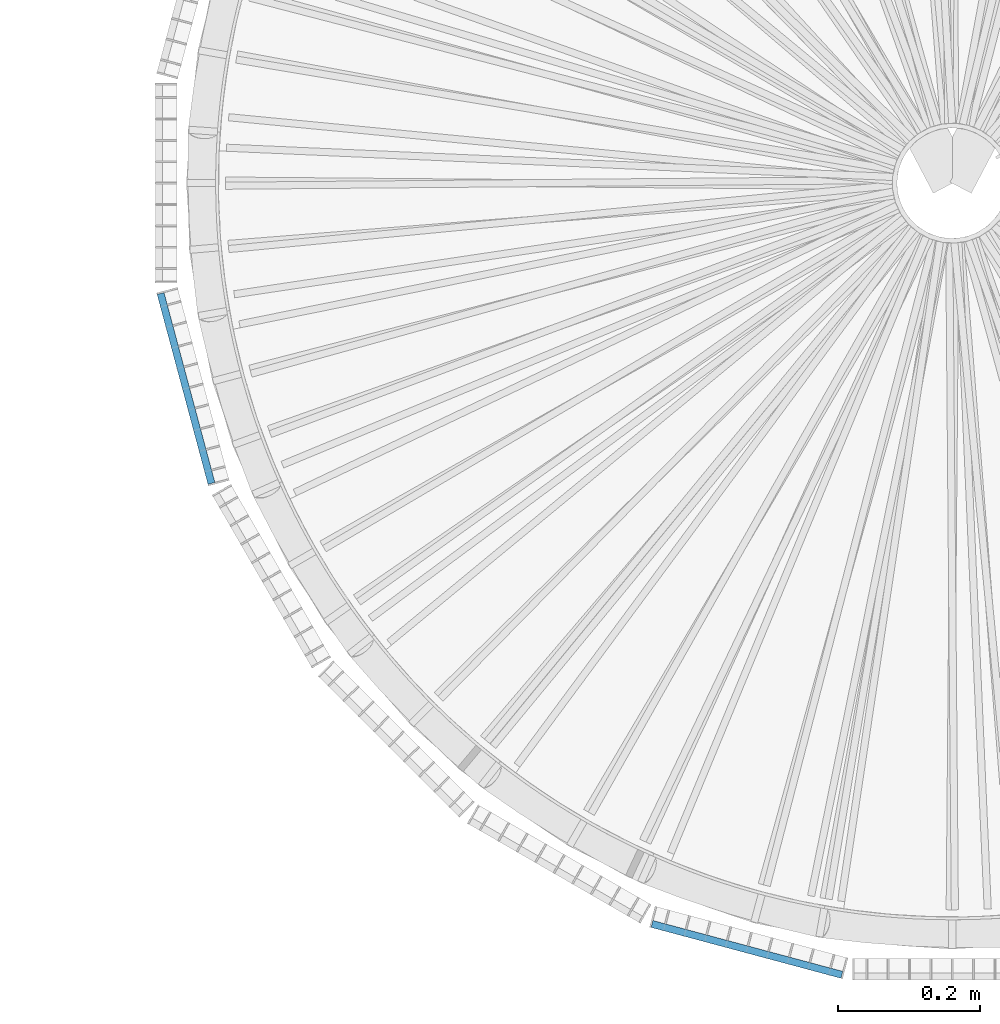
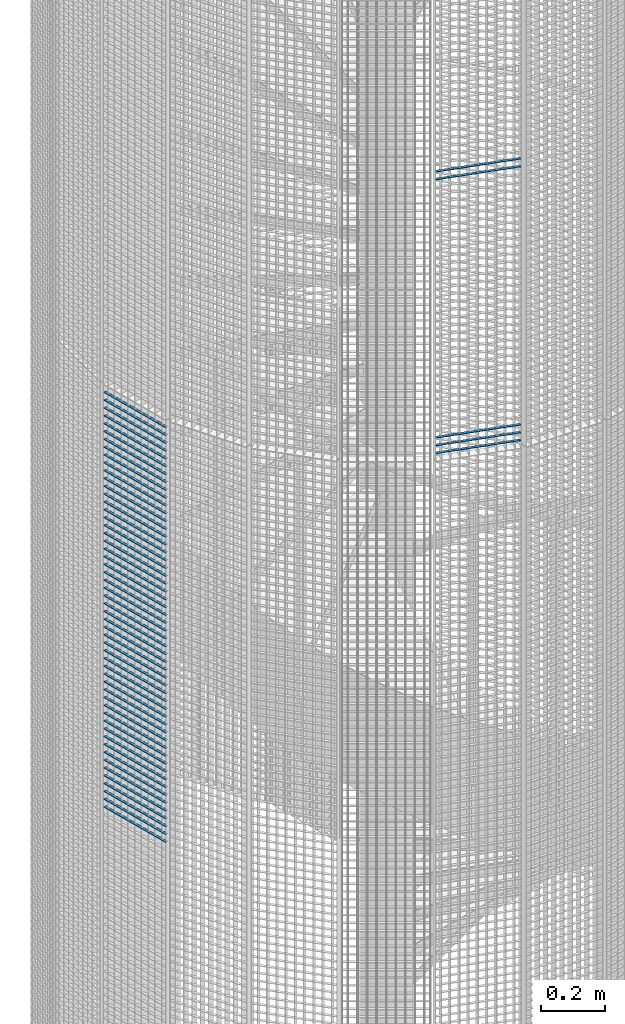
# One storey, part 365 of 1148: 59 beams, 2 elements without a shape of their own.
"""IFC2X3 building model written with IfcOpenShell, lengths in millimetres."""

from ifc_helpers import new_model, si_unit, frame, origin_with_axes, origin_2d_with_axis, place, context, subcontext, project, spatial, rectangle, extrude, material, type_object, element, aggregate, save


model = new_model("IFC2X3")

# Units and contexts
model_context = context("Model", 3, precision=1e-05, world=origin_with_axes())
body_context = subcontext(model_context, "Body", "Model", "MODEL_VIEW")
ifc_project = project(units=[si_unit("LENGTHUNIT", "METRE", prefix="MILLI"), si_unit("AREAUNIT", "SQUARE_METRE"), si_unit("VOLUMEUNIT", "CUBIC_METRE"), si_unit("MASSUNIT", "GRAM", prefix="KILO"), si_unit("TIMEUNIT", "SECOND"), si_unit("PLANEANGLEUNIT", "RADIAN"), si_unit("SOLIDANGLEUNIT", "STERADIAN"), si_unit("THERMODYNAMICTEMPERATUREUNIT", "DEGREE_CELSIUS"), si_unit("LUMINOUSINTENSITYUNIT", "LUMEN")], contexts=[model_context])

# Site, building, storey
site_placement = place(None, origin_with_axes())
site = spatial("IfcSite", under=ifc_project, at=site_placement, Name="Undefined", CompositionType="ELEMENT")
building_placement = place(site_placement, origin_with_axes())
building = spatial("IfcBuilding", under=site, at=building_placement, Name="Undefined", CompositionType="ELEMENT")
storey_placement = place(building_placement, origin_with_axes())
storey = spatial("IfcBuildingStorey", under=building, at=storey_placement, Name="Undefined", CompositionType="ELEMENT", Elevation=0.0)

# Assembly, beams
assembly_1_placement = place(storey_placement, origin_with_axes())
assembly_1 = element("IfcElementAssembly", 1, at=assembly_1_placement, inside=storey, Name="BORDURE", AssemblyPlace="NOTDEFINED", PredefinedType="NOTDEFINED")
ifc_material = material(Name="STEEL/S235JR")
beam_type = type_object("IfcBeamType", Name="PL2*10", PredefinedType="NOTDEFINED")
beam_1_placement = place(assembly_1_placement, frame((21445.1040732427, -1111.25508286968, 4080.0), z_axis=(-0.258819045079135, -0.965925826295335, 0.0), x_axis=(-0.965925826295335, 0.258819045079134, 0.0)))
beam_1 = element("IfcBeam", 2, at=beam_1_placement, type_object=beam_type, material=ifc_material, Name="ENTRETOISE", context=body_context, shape_type="SweptSolid", body=[
    extrude(rectangle(XDim=2.0, YDim=10.0, at=origin_2d_with_axis()), frame((275.999999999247, 9.09494701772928e-13, 1.53210777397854e-14), z_axis=(-1.0, 0.0, 0.0), x_axis=(0.0, -1.0, 0.0)), (0.0, 0.0, 1.0), 276.0),
])
beam_2_placement = place(assembly_1_placement, frame((21445.1040732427, -1111.25508286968, 3090.0), z_axis=(-0.258819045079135, -0.965925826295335, 0.0), x_axis=(-0.965925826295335, 0.258819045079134, 0.0)))
beam_2 = element("IfcBeam", 3, at=beam_2_placement, type_object=beam_type, material=ifc_material, Name="ENTRETOISE", context=body_context, shape_type="SweptSolid", body=[
    extrude(rectangle(XDim=2.0, YDim=10.0, at=origin_2d_with_axis()), frame((275.999999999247, 9.09494701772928e-13, 1.53210777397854e-14), z_axis=(-1.0, 0.0, 0.0), x_axis=(0.0, -1.0, 0.0)), (0.0, 0.0, 1.0), 276.0),
])
beam_3_placement = place(assembly_1_placement, frame((21445.1040732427, -1111.25508286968, 3060.0), z_axis=(-0.258819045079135, -0.965925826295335, 0.0), x_axis=(-0.965925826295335, 0.258819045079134, 0.0)))
beam_3 = element("IfcBeam", 4, at=beam_3_placement, type_object=beam_type, material=ifc_material, Name="ENTRETOISE", context=body_context, shape_type="SweptSolid", body=[
    extrude(rectangle(XDim=2.0, YDim=10.0, at=origin_2d_with_axis()), frame((275.999999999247, 9.09494701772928e-13, 1.53210777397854e-14), z_axis=(-1.0, 0.0, 0.0), x_axis=(0.0, -1.0, 0.0)), (0.0, 0.0, 1.0), 276.0),
])
beam_4_placement = place(assembly_1_placement, frame((21445.1040732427, -1111.25508286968, 4110.0), z_axis=(-0.258819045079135, -0.965925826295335, 0.0), x_axis=(-0.965925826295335, 0.258819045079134, 0.0)))
beam_4 = element("IfcBeam", 5, at=beam_4_placement, type_object=beam_type, material=ifc_material, Name="ENTRETOISE", context=body_context, shape_type="SweptSolid", body=[
    extrude(rectangle(XDim=2.0, YDim=10.0, at=origin_2d_with_axis()), frame((275.999999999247, 9.09494701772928e-13, 1.53210777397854e-14), z_axis=(-1.0, 0.0, 0.0), x_axis=(0.0, -1.0, 0.0)), (0.0, 0.0, 1.0), 276.0),
])
beam_5_placement = place(assembly_1_placement, frame((21445.1040732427, -1111.25508286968, 3030.0), z_axis=(-0.258819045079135, -0.965925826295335, 0.0), x_axis=(-0.965925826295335, 0.258819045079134, 0.0)))
beam_5 = element("IfcBeam", 6, at=beam_5_placement, type_object=beam_type, material=ifc_material, Name="ENTRETOISE", context=body_context, shape_type="SweptSolid", body=[
    extrude(rectangle(XDim=2.0, YDim=10.0, at=origin_2d_with_axis()), frame((275.999999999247, 9.09494701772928e-13, 1.53210777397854e-14), z_axis=(-1.0, 0.0, 0.0), x_axis=(0.0, -1.0, 0.0)), (0.0, 0.0, 1.0), 276.0),
])
aggregate(assembly_1, [beam_1, beam_2, beam_3, beam_4, beam_5])

assembly_2_placement = place(storey_placement, origin_with_axes())
assembly_2 = element("IfcElementAssembly", 7, at=assembly_2_placement, inside=storey, Name="BORDURE", AssemblyPlace="NOTDEFINED", PredefinedType="NOTDEFINED")
beam_6_placement = place(assembly_2_placement, frame((20560.1769047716, -421.483733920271, 2970.0), z_axis=(-0.965925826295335, -0.258819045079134, 0.0), x_axis=(-0.258819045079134, 0.965925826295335, 0.0)))
beam_6 = element("IfcBeam", 8, at=beam_6_placement, type_object=beam_type, material=ifc_material, Name="ENTRETOISE", context=body_context, shape_type="SweptSolid", body=[
    extrude(rectangle(XDim=2.0, YDim=10.0, at=origin_2d_with_axis()), frame((275.999999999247, 9.09494701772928e-13, 1.53210777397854e-14), z_axis=(-1.0, 0.0, 0.0), x_axis=(0.0, -1.0, 0.0)), (0.0, 0.0, 1.0), 276.0),
])
beam_7_placement = place(assembly_2_placement, frame((20560.1769047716, -421.483733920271, 2940.0), z_axis=(-0.965925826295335, -0.258819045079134, 0.0), x_axis=(-0.258819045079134, 0.965925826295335, 0.0)))
beam_7 = element("IfcBeam", 9, at=beam_7_placement, type_object=beam_type, material=ifc_material, Name="ENTRETOISE", context=body_context, shape_type="SweptSolid", body=[
    extrude(rectangle(XDim=2.0, YDim=10.0, at=origin_2d_with_axis()), frame((275.999999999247, 9.09494701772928e-13, 1.53210777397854e-14), z_axis=(-1.0, 0.0, 0.0), x_axis=(0.0, -1.0, 0.0)), (0.0, 0.0, 1.0), 276.0),
])
beam_8_placement = place(assembly_2_placement, frame((20560.1769047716, -421.483733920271, 2910.0), z_axis=(-0.965925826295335, -0.258819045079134, 0.0), x_axis=(-0.258819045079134, 0.965925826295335, 0.0)))
beam_8 = element("IfcBeam", 10, at=beam_8_placement, type_object=beam_type, material=ifc_material, Name="ENTRETOISE", context=body_context, shape_type="SweptSolid", body=[
    extrude(rectangle(XDim=2.0, YDim=10.0, at=origin_2d_with_axis()), frame((275.999999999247, 9.09494701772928e-13, 1.53210777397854e-14), z_axis=(-1.0, 0.0, 0.0), x_axis=(0.0, -1.0, 0.0)), (0.0, 0.0, 1.0), 276.0),
])
beam_9_placement = place(assembly_2_placement, frame((20560.1769047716, -421.483733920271, 2880.0), z_axis=(-0.965925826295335, -0.258819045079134, 0.0), x_axis=(-0.258819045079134, 0.965925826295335, 0.0)))
beam_9 = element("IfcBeam", 11, at=beam_9_placement, type_object=beam_type, material=ifc_material, Name="ENTRETOISE", context=body_context, shape_type="SweptSolid", body=[
    extrude(rectangle(XDim=2.0, YDim=10.0, at=origin_2d_with_axis()), frame((275.999999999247, 9.09494701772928e-13, 1.53210777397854e-14), z_axis=(-1.0, 0.0, 0.0), x_axis=(0.0, -1.0, 0.0)), (0.0, 0.0, 1.0), 276.0),
])
beam_10_placement = place(assembly_2_placement, frame((20560.1769047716, -421.483733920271, 2850.0), z_axis=(-0.965925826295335, -0.258819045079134, 0.0), x_axis=(-0.258819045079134, 0.965925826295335, 0.0)))
beam_10 = element("IfcBeam", 12, at=beam_10_placement, type_object=beam_type, material=ifc_material, Name="ENTRETOISE", context=body_context, shape_type="SweptSolid", body=[
    extrude(rectangle(XDim=2.0, YDim=10.0, at=origin_2d_with_axis()), frame((275.999999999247, 9.09494701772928e-13, 1.53210777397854e-14), z_axis=(-1.0, 0.0, 0.0), x_axis=(0.0, -1.0, 0.0)), (0.0, 0.0, 1.0), 276.0),
])
beam_11_placement = place(assembly_2_placement, frame((20560.1769047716, -421.483733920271, 2820.0), z_axis=(-0.965925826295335, -0.258819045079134, 0.0), x_axis=(-0.258819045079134, 0.965925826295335, 0.0)))
beam_11 = element("IfcBeam", 13, at=beam_11_placement, type_object=beam_type, material=ifc_material, Name="ENTRETOISE", context=body_context, shape_type="SweptSolid", body=[
    extrude(rectangle(XDim=2.0, YDim=10.0, at=origin_2d_with_axis()), frame((275.999999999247, 9.09494701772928e-13, 1.53210777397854e-14), z_axis=(-1.0, 0.0, 0.0), x_axis=(0.0, -1.0, 0.0)), (0.0, 0.0, 1.0), 276.0),
])
beam_12_placement = place(assembly_2_placement, frame((20560.1769047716, -421.483733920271, 2790.0), z_axis=(-0.965925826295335, -0.258819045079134, 0.0), x_axis=(-0.258819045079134, 0.965925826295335, 0.0)))
beam_12 = element("IfcBeam", 14, at=beam_12_placement, type_object=beam_type, material=ifc_material, Name="ENTRETOISE", context=body_context, shape_type="SweptSolid", body=[
    extrude(rectangle(XDim=2.0, YDim=10.0, at=origin_2d_with_axis()), frame((275.999999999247, 9.09494701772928e-13, 1.53210777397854e-14), z_axis=(-1.0, 0.0, 0.0), x_axis=(0.0, -1.0, 0.0)), (0.0, 0.0, 1.0), 276.0),
])
beam_13_placement = place(assembly_2_placement, frame((20560.1769047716, -421.483733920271, 2760.0), z_axis=(-0.965925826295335, -0.258819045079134, 0.0), x_axis=(-0.258819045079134, 0.965925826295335, 0.0)))
beam_13 = element("IfcBeam", 15, at=beam_13_placement, type_object=beam_type, material=ifc_material, Name="ENTRETOISE", context=body_context, shape_type="SweptSolid", body=[
    extrude(rectangle(XDim=2.0, YDim=10.0, at=origin_2d_with_axis()), frame((275.999999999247, 9.09494701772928e-13, 1.53210777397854e-14), z_axis=(-1.0, 0.0, 0.0), x_axis=(0.0, -1.0, 0.0)), (0.0, 0.0, 1.0), 276.0),
])
beam_14_placement = place(assembly_2_placement, frame((20560.1769047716, -421.48373392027, 2730.0), z_axis=(-0.965925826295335, -0.258819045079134, 0.0), x_axis=(-0.258819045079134, 0.965925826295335, 0.0)))
beam_14 = element("IfcBeam", 16, at=beam_14_placement, type_object=beam_type, material=ifc_material, Name="ENTRETOISE", context=body_context, shape_type="SweptSolid", body=[
    extrude(rectangle(XDim=2.0, YDim=10.0, at=origin_2d_with_axis()), frame((275.999999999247, 9.09494701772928e-13, 1.53210777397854e-14), z_axis=(-1.0, 0.0, 0.0), x_axis=(0.0, -1.0, 0.0)), (0.0, 0.0, 1.0), 276.0),
])
beam_15_placement = place(assembly_2_placement, frame((20560.1769047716, -421.48373392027, 2700.0), z_axis=(-0.965925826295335, -0.258819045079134, 0.0), x_axis=(-0.258819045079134, 0.965925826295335, 0.0)))
beam_15 = element("IfcBeam", 17, at=beam_15_placement, type_object=beam_type, material=ifc_material, Name="ENTRETOISE", context=body_context, shape_type="SweptSolid", body=[
    extrude(rectangle(XDim=2.0, YDim=10.0, at=origin_2d_with_axis()), frame((275.999999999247, 9.09494701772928e-13, 1.53210777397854e-14), z_axis=(-1.0, 0.0, 0.0), x_axis=(0.0, -1.0, 0.0)), (0.0, 0.0, 1.0), 276.0),
])
beam_16_placement = place(assembly_2_placement, frame((20560.1769047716, -421.48373392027, 2670.0), z_axis=(-0.965925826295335, -0.258819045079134, 0.0), x_axis=(-0.258819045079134, 0.965925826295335, 0.0)))
beam_16 = element("IfcBeam", 18, at=beam_16_placement, type_object=beam_type, material=ifc_material, Name="ENTRETOISE", context=body_context, shape_type="SweptSolid", body=[
    extrude(rectangle(XDim=2.0, YDim=10.0, at=origin_2d_with_axis()), frame((275.999999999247, 9.09494701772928e-13, 1.53210777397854e-14), z_axis=(-1.0, 0.0, 0.0), x_axis=(0.0, -1.0, 0.0)), (0.0, 0.0, 1.0), 276.0),
])
beam_17_placement = place(assembly_2_placement, frame((20560.1769047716, -421.48373392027, 2640.0), z_axis=(-0.965925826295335, -0.258819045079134, 0.0), x_axis=(-0.258819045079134, 0.965925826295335, 0.0)))
beam_17 = element("IfcBeam", 19, at=beam_17_placement, type_object=beam_type, material=ifc_material, Name="ENTRETOISE", context=body_context, shape_type="SweptSolid", body=[
    extrude(rectangle(XDim=2.0, YDim=10.0, at=origin_2d_with_axis()), frame((275.999999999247, 9.09494701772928e-13, 1.53210777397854e-14), z_axis=(-1.0, 0.0, 0.0), x_axis=(0.0, -1.0, 0.0)), (0.0, 0.0, 1.0), 276.0),
])
beam_18_placement = place(assembly_2_placement, frame((20560.1769047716, -421.48373392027, 2610.0), z_axis=(-0.965925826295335, -0.258819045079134, 0.0), x_axis=(-0.258819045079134, 0.965925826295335, 0.0)))
beam_18 = element("IfcBeam", 20, at=beam_18_placement, type_object=beam_type, material=ifc_material, Name="ENTRETOISE", context=body_context, shape_type="SweptSolid", body=[
    extrude(rectangle(XDim=2.0, YDim=10.0, at=origin_2d_with_axis()), frame((275.999999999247, 9.09494701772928e-13, 1.53210777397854e-14), z_axis=(-1.0, 0.0, 0.0), x_axis=(0.0, -1.0, 0.0)), (0.0, 0.0, 1.0), 276.0),
])
beam_19_placement = place(assembly_2_placement, frame((20560.1769047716, -421.48373392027, 2580.0), z_axis=(-0.965925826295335, -0.258819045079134, 0.0), x_axis=(-0.258819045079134, 0.965925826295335, 0.0)))
beam_19 = element("IfcBeam", 21, at=beam_19_placement, type_object=beam_type, material=ifc_material, Name="ENTRETOISE", context=body_context, shape_type="SweptSolid", body=[
    extrude(rectangle(XDim=2.0, YDim=10.0, at=origin_2d_with_axis()), frame((275.999999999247, 9.09494701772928e-13, 1.53210777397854e-14), z_axis=(-1.0, 0.0, 0.0), x_axis=(0.0, -1.0, 0.0)), (0.0, 0.0, 1.0), 276.0),
])
beam_20_placement = place(assembly_2_placement, frame((20560.1769047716, -421.48373392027, 2550.0), z_axis=(-0.965925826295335, -0.258819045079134, 0.0), x_axis=(-0.258819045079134, 0.965925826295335, 0.0)))
beam_20 = element("IfcBeam", 22, at=beam_20_placement, type_object=beam_type, material=ifc_material, Name="ENTRETOISE", context=body_context, shape_type="SweptSolid", body=[
    extrude(rectangle(XDim=2.0, YDim=10.0, at=origin_2d_with_axis()), frame((275.999999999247, 9.09494701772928e-13, 1.53210777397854e-14), z_axis=(-1.0, 0.0, 0.0), x_axis=(0.0, -1.0, 0.0)), (0.0, 0.0, 1.0), 276.0),
])
beam_21_placement = place(assembly_2_placement, frame((20560.1769047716, -421.48373392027, 2520.0), z_axis=(-0.965925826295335, -0.258819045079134, 0.0), x_axis=(-0.258819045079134, 0.965925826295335, 0.0)))
beam_21 = element("IfcBeam", 23, at=beam_21_placement, type_object=beam_type, material=ifc_material, Name="ENTRETOISE", context=body_context, shape_type="SweptSolid", body=[
    extrude(rectangle(XDim=2.0, YDim=10.0, at=origin_2d_with_axis()), frame((275.999999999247, 9.09494701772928e-13, 1.53210777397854e-14), z_axis=(-1.0, 0.0, 0.0), x_axis=(0.0, -1.0, 0.0)), (0.0, 0.0, 1.0), 276.0),
])
beam_22_placement = place(assembly_2_placement, frame((20560.1769047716, -421.48373392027, 2490.0), z_axis=(-0.965925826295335, -0.258819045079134, 0.0), x_axis=(-0.258819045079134, 0.965925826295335, 0.0)))
beam_22 = element("IfcBeam", 24, at=beam_22_placement, type_object=beam_type, material=ifc_material, Name="ENTRETOISE", context=body_context, shape_type="SweptSolid", body=[
    extrude(rectangle(XDim=2.0, YDim=10.0, at=origin_2d_with_axis()), frame((275.999999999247, 9.09494701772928e-13, 1.53210777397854e-14), z_axis=(-1.0, 0.0, 0.0), x_axis=(0.0, -1.0, 0.0)), (0.0, 0.0, 1.0), 276.0),
])
beam_23_placement = place(assembly_2_placement, frame((20560.1769047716, -421.483733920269, 2460.0), z_axis=(-0.965925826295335, -0.258819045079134, 0.0), x_axis=(-0.258819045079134, 0.965925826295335, 0.0)))
beam_23 = element("IfcBeam", 25, at=beam_23_placement, type_object=beam_type, material=ifc_material, Name="ENTRETOISE", context=body_context, shape_type="SweptSolid", body=[
    extrude(rectangle(XDim=2.0, YDim=10.0, at=origin_2d_with_axis()), frame((275.999999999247, 9.09494701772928e-13, 1.53210777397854e-14), z_axis=(-1.0, 0.0, 0.0), x_axis=(0.0, -1.0, 0.0)), (0.0, 0.0, 1.0), 276.0),
])
beam_24_placement = place(assembly_2_placement, frame((20560.1769047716, -421.483733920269, 2430.0), z_axis=(-0.965925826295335, -0.258819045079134, 0.0), x_axis=(-0.258819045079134, 0.965925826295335, 0.0)))
beam_24 = element("IfcBeam", 26, at=beam_24_placement, type_object=beam_type, material=ifc_material, Name="ENTRETOISE", context=body_context, shape_type="SweptSolid", body=[
    extrude(rectangle(XDim=2.0, YDim=10.0, at=origin_2d_with_axis()), frame((275.999999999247, 9.09494701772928e-13, 1.53210777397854e-14), z_axis=(-1.0, 0.0, 0.0), x_axis=(0.0, -1.0, 0.0)), (0.0, 0.0, 1.0), 276.0),
])
beam_25_placement = place(assembly_2_placement, frame((20560.1769047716, -421.483733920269, 2400.0), z_axis=(-0.965925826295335, -0.258819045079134, 0.0), x_axis=(-0.258819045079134, 0.965925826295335, 0.0)))
beam_25 = element("IfcBeam", 27, at=beam_25_placement, type_object=beam_type, material=ifc_material, Name="ENTRETOISE", context=body_context, shape_type="SweptSolid", body=[
    extrude(rectangle(XDim=2.0, YDim=10.0, at=origin_2d_with_axis()), frame((275.999999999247, 9.09494701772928e-13, 1.53210777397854e-14), z_axis=(-1.0, 0.0, 0.0), x_axis=(0.0, -1.0, 0.0)), (0.0, 0.0, 1.0), 276.0),
])
beam_26_placement = place(assembly_2_placement, frame((20560.1769047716, -421.483733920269, 2370.0), z_axis=(-0.965925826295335, -0.258819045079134, 0.0), x_axis=(-0.258819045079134, 0.965925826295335, 0.0)))
beam_26 = element("IfcBeam", 28, at=beam_26_placement, type_object=beam_type, material=ifc_material, Name="ENTRETOISE", context=body_context, shape_type="SweptSolid", body=[
    extrude(rectangle(XDim=2.0, YDim=10.0, at=origin_2d_with_axis()), frame((275.999999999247, 9.09494701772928e-13, 1.53210777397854e-14), z_axis=(-1.0, 0.0, 0.0), x_axis=(0.0, -1.0, 0.0)), (0.0, 0.0, 1.0), 276.0),
])
beam_27_placement = place(assembly_2_placement, frame((20560.1769047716, -421.483733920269, 2340.0), z_axis=(-0.965925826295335, -0.258819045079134, 0.0), x_axis=(-0.258819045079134, 0.965925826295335, 0.0)))
beam_27 = element("IfcBeam", 29, at=beam_27_placement, type_object=beam_type, material=ifc_material, Name="ENTRETOISE", context=body_context, shape_type="SweptSolid", body=[
    extrude(rectangle(XDim=2.0, YDim=10.0, at=origin_2d_with_axis()), frame((275.999999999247, 9.09494701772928e-13, 1.53210777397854e-14), z_axis=(-1.0, 0.0, 0.0), x_axis=(0.0, -1.0, 0.0)), (0.0, 0.0, 1.0), 276.0),
])
beam_28_placement = place(assembly_2_placement, frame((20560.1769047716, -421.483733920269, 2310.0), z_axis=(-0.965925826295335, -0.258819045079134, 0.0), x_axis=(-0.258819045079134, 0.965925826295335, 0.0)))
beam_28 = element("IfcBeam", 30, at=beam_28_placement, type_object=beam_type, material=ifc_material, Name="ENTRETOISE", context=body_context, shape_type="SweptSolid", body=[
    extrude(rectangle(XDim=2.0, YDim=10.0, at=origin_2d_with_axis()), frame((275.999999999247, 9.09494701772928e-13, 1.53210777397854e-14), z_axis=(-1.0, 0.0, 0.0), x_axis=(0.0, -1.0, 0.0)), (0.0, 0.0, 1.0), 276.0),
])
beam_29_placement = place(assembly_2_placement, frame((20560.1769047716, -421.483733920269, 2280.0), z_axis=(-0.965925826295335, -0.258819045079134, 0.0), x_axis=(-0.258819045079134, 0.965925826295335, 0.0)))
beam_29 = element("IfcBeam", 31, at=beam_29_placement, type_object=beam_type, material=ifc_material, Name="ENTRETOISE", context=body_context, shape_type="SweptSolid", body=[
    extrude(rectangle(XDim=2.0, YDim=10.0, at=origin_2d_with_axis()), frame((275.999999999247, 9.09494701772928e-13, 1.53210777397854e-14), z_axis=(-1.0, 0.0, 0.0), x_axis=(0.0, -1.0, 0.0)), (0.0, 0.0, 1.0), 276.0),
])
beam_30_placement = place(assembly_2_placement, frame((20560.1769047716, -421.483733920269, 2250.0), z_axis=(-0.965925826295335, -0.258819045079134, 0.0), x_axis=(-0.258819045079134, 0.965925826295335, 0.0)))
beam_30 = element("IfcBeam", 32, at=beam_30_placement, type_object=beam_type, material=ifc_material, Name="ENTRETOISE", context=body_context, shape_type="SweptSolid", body=[
    extrude(rectangle(XDim=2.0, YDim=10.0, at=origin_2d_with_axis()), frame((275.999999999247, 9.09494701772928e-13, 1.53210777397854e-14), z_axis=(-1.0, 0.0, 0.0), x_axis=(0.0, -1.0, 0.0)), (0.0, 0.0, 1.0), 276.0),
])
beam_31_placement = place(assembly_2_placement, frame((20560.1769047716, -421.483733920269, 2220.0), z_axis=(-0.965925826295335, -0.258819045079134, 0.0), x_axis=(-0.258819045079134, 0.965925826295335, 0.0)))
beam_31 = element("IfcBeam", 33, at=beam_31_placement, type_object=beam_type, material=ifc_material, Name="ENTRETOISE", context=body_context, shape_type="SweptSolid", body=[
    extrude(rectangle(XDim=2.0, YDim=10.0, at=origin_2d_with_axis()), frame((275.999999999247, 9.09494701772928e-13, 1.53210777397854e-14), z_axis=(-1.0, 0.0, 0.0), x_axis=(0.0, -1.0, 0.0)), (0.0, 0.0, 1.0), 276.0),
])
beam_32_placement = place(assembly_2_placement, frame((20560.1769047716, -421.483733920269, 2190.0), z_axis=(-0.965925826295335, -0.258819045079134, 0.0), x_axis=(-0.258819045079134, 0.965925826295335, 0.0)))
beam_32 = element("IfcBeam", 34, at=beam_32_placement, type_object=beam_type, material=ifc_material, Name="ENTRETOISE", context=body_context, shape_type="SweptSolid", body=[
    extrude(rectangle(XDim=2.0, YDim=10.0, at=origin_2d_with_axis()), frame((275.999999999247, 9.09494701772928e-13, 1.53210777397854e-14), z_axis=(-1.0, 0.0, 0.0), x_axis=(0.0, -1.0, 0.0)), (0.0, 0.0, 1.0), 276.0),
])
beam_33_placement = place(assembly_2_placement, frame((20560.1769047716, -421.483733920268, 2160.0), z_axis=(-0.965925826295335, -0.258819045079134, 0.0), x_axis=(-0.258819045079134, 0.965925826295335, 0.0)))
beam_33 = element("IfcBeam", 35, at=beam_33_placement, type_object=beam_type, material=ifc_material, Name="ENTRETOISE", context=body_context, shape_type="SweptSolid", body=[
    extrude(rectangle(XDim=2.0, YDim=10.0, at=origin_2d_with_axis()), frame((275.999999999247, 9.09494701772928e-13, 1.53210777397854e-14), z_axis=(-1.0, 0.0, 0.0), x_axis=(0.0, -1.0, 0.0)), (0.0, 0.0, 1.0), 276.0),
])
beam_34_placement = place(assembly_2_placement, frame((20560.1769047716, -421.483733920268, 2130.0), z_axis=(-0.965925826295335, -0.258819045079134, 0.0), x_axis=(-0.258819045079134, 0.965925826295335, 0.0)))
beam_34 = element("IfcBeam", 36, at=beam_34_placement, type_object=beam_type, material=ifc_material, Name="ENTRETOISE", context=body_context, shape_type="SweptSolid", body=[
    extrude(rectangle(XDim=2.0, YDim=10.0, at=origin_2d_with_axis()), frame((275.999999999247, 9.09494701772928e-13, 1.53210777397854e-14), z_axis=(-1.0, 0.0, 0.0), x_axis=(0.0, -1.0, 0.0)), (0.0, 0.0, 1.0), 276.0),
])
beam_35_placement = place(assembly_2_placement, frame((20560.1769047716, -421.483733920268, 2100.0), z_axis=(-0.965925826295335, -0.258819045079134, 0.0), x_axis=(-0.258819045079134, 0.965925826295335, 0.0)))
beam_35 = element("IfcBeam", 37, at=beam_35_placement, type_object=beam_type, material=ifc_material, Name="ENTRETOISE", context=body_context, shape_type="SweptSolid", body=[
    extrude(rectangle(XDim=2.0, YDim=10.0, at=origin_2d_with_axis()), frame((275.999999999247, 9.09494701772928e-13, 1.53210777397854e-14), z_axis=(-1.0, 0.0, 0.0), x_axis=(0.0, -1.0, 0.0)), (0.0, 0.0, 1.0), 276.0),
])
beam_36_placement = place(assembly_2_placement, frame((20560.1769047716, -421.483733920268, 2070.0), z_axis=(-0.965925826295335, -0.258819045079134, 0.0), x_axis=(-0.258819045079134, 0.965925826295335, 0.0)))
beam_36 = element("IfcBeam", 38, at=beam_36_placement, type_object=beam_type, material=ifc_material, Name="ENTRETOISE", context=body_context, shape_type="SweptSolid", body=[
    extrude(rectangle(XDim=2.0, YDim=10.0, at=origin_2d_with_axis()), frame((275.999999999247, 9.09494701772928e-13, 1.53210777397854e-14), z_axis=(-1.0, 0.0, 0.0), x_axis=(0.0, -1.0, 0.0)), (0.0, 0.0, 1.0), 276.0),
])
beam_37_placement = place(assembly_2_placement, frame((20560.1769047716, -421.483733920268, 2040.0), z_axis=(-0.965925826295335, -0.258819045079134, 0.0), x_axis=(-0.258819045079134, 0.965925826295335, 0.0)))
beam_37 = element("IfcBeam", 39, at=beam_37_placement, type_object=beam_type, material=ifc_material, Name="ENTRETOISE", context=body_context, shape_type="SweptSolid", body=[
    extrude(rectangle(XDim=2.0, YDim=10.0, at=origin_2d_with_axis()), frame((275.999999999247, 9.09494701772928e-13, 1.53210777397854e-14), z_axis=(-1.0, 0.0, 0.0), x_axis=(0.0, -1.0, 0.0)), (0.0, 0.0, 1.0), 276.0),
])
beam_38_placement = place(assembly_2_placement, frame((20560.1769047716, -421.483733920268, 2010.0), z_axis=(-0.965925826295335, -0.258819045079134, 0.0), x_axis=(-0.258819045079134, 0.965925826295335, 0.0)))
beam_38 = element("IfcBeam", 40, at=beam_38_placement, type_object=beam_type, material=ifc_material, Name="ENTRETOISE", context=body_context, shape_type="SweptSolid", body=[
    extrude(rectangle(XDim=2.0, YDim=10.0, at=origin_2d_with_axis()), frame((275.999999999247, 9.09494701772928e-13, 1.53210777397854e-14), z_axis=(-1.0, 0.0, 0.0), x_axis=(0.0, -1.0, 0.0)), (0.0, 0.0, 1.0), 276.0),
])
beam_39_placement = place(assembly_2_placement, frame((20560.1769047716, -421.483733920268, 1980.0), z_axis=(-0.965925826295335, -0.258819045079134, 0.0), x_axis=(-0.258819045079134, 0.965925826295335, 0.0)))
beam_39 = element("IfcBeam", 41, at=beam_39_placement, type_object=beam_type, material=ifc_material, Name="ENTRETOISE", context=body_context, shape_type="SweptSolid", body=[
    extrude(rectangle(XDim=2.0, YDim=10.0, at=origin_2d_with_axis()), frame((275.999999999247, 9.09494701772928e-13, 1.53210777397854e-14), z_axis=(-1.0, 0.0, 0.0), x_axis=(0.0, -1.0, 0.0)), (0.0, 0.0, 1.0), 276.0),
])
beam_40_placement = place(assembly_2_placement, frame((20560.1769047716, -421.483733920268, 1950.0), z_axis=(-0.965925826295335, -0.258819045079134, 0.0), x_axis=(-0.258819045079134, 0.965925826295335, 0.0)))
beam_40 = element("IfcBeam", 42, at=beam_40_placement, type_object=beam_type, material=ifc_material, Name="ENTRETOISE", context=body_context, shape_type="SweptSolid", body=[
    extrude(rectangle(XDim=2.0, YDim=10.0, at=origin_2d_with_axis()), frame((275.999999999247, 9.09494701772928e-13, 1.53210777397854e-14), z_axis=(-1.0, 0.0, 0.0), x_axis=(0.0, -1.0, 0.0)), (0.0, 0.0, 1.0), 276.0),
])
beam_41_placement = place(assembly_2_placement, frame((20560.1769047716, -421.483733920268, 1920.0), z_axis=(-0.965925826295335, -0.258819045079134, 0.0), x_axis=(-0.258819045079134, 0.965925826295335, 0.0)))
beam_41 = element("IfcBeam", 43, at=beam_41_placement, type_object=beam_type, material=ifc_material, Name="ENTRETOISE", context=body_context, shape_type="SweptSolid", body=[
    extrude(rectangle(XDim=2.0, YDim=10.0, at=origin_2d_with_axis()), frame((275.999999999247, 9.09494701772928e-13, 1.53210777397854e-14), z_axis=(-1.0, 0.0, 0.0), x_axis=(0.0, -1.0, 0.0)), (0.0, 0.0, 1.0), 276.0),
])
beam_42_placement = place(assembly_2_placement, frame((20560.1769047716, -421.483733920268, 1890.0), z_axis=(-0.965925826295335, -0.258819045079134, 0.0), x_axis=(-0.258819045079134, 0.965925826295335, 0.0)))
beam_42 = element("IfcBeam", 44, at=beam_42_placement, type_object=beam_type, material=ifc_material, Name="ENTRETOISE", context=body_context, shape_type="SweptSolid", body=[
    extrude(rectangle(XDim=2.0, YDim=10.0, at=origin_2d_with_axis()), frame((275.999999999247, 9.09494701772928e-13, 1.53210777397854e-14), z_axis=(-1.0, 0.0, 0.0), x_axis=(0.0, -1.0, 0.0)), (0.0, 0.0, 1.0), 276.0),
])
beam_43_placement = place(assembly_2_placement, frame((20560.1769047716, -421.483733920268, 1860.0), z_axis=(-0.965925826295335, -0.258819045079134, 0.0), x_axis=(-0.258819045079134, 0.965925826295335, 0.0)))
beam_43 = element("IfcBeam", 45, at=beam_43_placement, type_object=beam_type, material=ifc_material, Name="ENTRETOISE", context=body_context, shape_type="SweptSolid", body=[
    extrude(rectangle(XDim=2.0, YDim=10.0, at=origin_2d_with_axis()), frame((275.999999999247, 9.09494701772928e-13, 1.53210777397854e-14), z_axis=(-1.0, 0.0, 0.0), x_axis=(0.0, -1.0, 0.0)), (0.0, 0.0, 1.0), 276.0),
])
beam_44_placement = place(assembly_2_placement, frame((20560.1769047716, -421.483733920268, 1830.0), z_axis=(-0.965925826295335, -0.258819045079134, 0.0), x_axis=(-0.258819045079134, 0.965925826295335, 0.0)))
beam_44 = element("IfcBeam", 46, at=beam_44_placement, type_object=beam_type, material=ifc_material, Name="ENTRETOISE", context=body_context, shape_type="SweptSolid", body=[
    extrude(rectangle(XDim=2.0, YDim=10.0, at=origin_2d_with_axis()), frame((275.999999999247, 9.09494701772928e-13, 1.53210777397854e-14), z_axis=(-1.0, 0.0, 0.0), x_axis=(0.0, -1.0, 0.0)), (0.0, 0.0, 1.0), 276.0),
])
beam_45_placement = place(assembly_2_placement, frame((20560.1769047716, -421.483733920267, 1800.0), z_axis=(-0.965925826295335, -0.258819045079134, 0.0), x_axis=(-0.258819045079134, 0.965925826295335, 0.0)))
beam_45 = element("IfcBeam", 47, at=beam_45_placement, type_object=beam_type, material=ifc_material, Name="ENTRETOISE", context=body_context, shape_type="SweptSolid", body=[
    extrude(rectangle(XDim=2.0, YDim=10.0, at=origin_2d_with_axis()), frame((275.999999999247, 9.09494701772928e-13, 1.53210777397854e-14), z_axis=(-1.0, 0.0, 0.0), x_axis=(0.0, -1.0, 0.0)), (0.0, 0.0, 1.0), 276.0),
])
beam_46_placement = place(assembly_2_placement, frame((20560.1769047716, -421.483733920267, 1770.0), z_axis=(-0.965925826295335, -0.258819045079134, 0.0), x_axis=(-0.258819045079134, 0.965925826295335, 0.0)))
beam_46 = element("IfcBeam", 48, at=beam_46_placement, type_object=beam_type, material=ifc_material, Name="ENTRETOISE", context=body_context, shape_type="SweptSolid", body=[
    extrude(rectangle(XDim=2.0, YDim=10.0, at=origin_2d_with_axis()), frame((275.999999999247, 9.09494701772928e-13, 1.53210777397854e-14), z_axis=(-1.0, 0.0, 0.0), x_axis=(0.0, -1.0, 0.0)), (0.0, 0.0, 1.0), 276.0),
])
beam_47_placement = place(assembly_2_placement, frame((20560.1769047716, -421.483733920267, 1740.0), z_axis=(-0.965925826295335, -0.258819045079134, 0.0), x_axis=(-0.258819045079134, 0.965925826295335, 0.0)))
beam_47 = element("IfcBeam", 49, at=beam_47_placement, type_object=beam_type, material=ifc_material, Name="ENTRETOISE", context=body_context, shape_type="SweptSolid", body=[
    extrude(rectangle(XDim=2.0, YDim=10.0, at=origin_2d_with_axis()), frame((275.999999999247, 9.09494701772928e-13, 1.53210777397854e-14), z_axis=(-1.0, 0.0, 0.0), x_axis=(0.0, -1.0, 0.0)), (0.0, 0.0, 1.0), 276.0),
])
beam_48_placement = place(assembly_2_placement, frame((20560.1769047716, -421.483733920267, 1710.0), z_axis=(-0.965925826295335, -0.258819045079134, 0.0), x_axis=(-0.258819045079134, 0.965925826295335, 0.0)))
beam_48 = element("IfcBeam", 50, at=beam_48_placement, type_object=beam_type, material=ifc_material, Name="ENTRETOISE", context=body_context, shape_type="SweptSolid", body=[
    extrude(rectangle(XDim=2.0, YDim=10.0, at=origin_2d_with_axis()), frame((275.999999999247, 9.09494701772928e-13, 1.53210777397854e-14), z_axis=(-1.0, 0.0, 0.0), x_axis=(0.0, -1.0, 0.0)), (0.0, 0.0, 1.0), 276.0),
])
beam_49_placement = place(assembly_2_placement, frame((20560.1769047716, -421.483733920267, 1680.0), z_axis=(-0.965925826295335, -0.258819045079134, 0.0), x_axis=(-0.258819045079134, 0.965925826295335, 0.0)))
beam_49 = element("IfcBeam", 51, at=beam_49_placement, type_object=beam_type, material=ifc_material, Name="ENTRETOISE", context=body_context, shape_type="SweptSolid", body=[
    extrude(rectangle(XDim=2.0, YDim=10.0, at=origin_2d_with_axis()), frame((275.999999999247, 9.09494701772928e-13, 1.53210777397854e-14), z_axis=(-1.0, 0.0, 0.0), x_axis=(0.0, -1.0, 0.0)), (0.0, 0.0, 1.0), 276.0),
])
beam_50_placement = place(assembly_2_placement, frame((20560.1769047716, -421.483733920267, 1650.0), z_axis=(-0.965925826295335, -0.258819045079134, 0.0), x_axis=(-0.258819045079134, 0.965925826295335, 0.0)))
beam_50 = element("IfcBeam", 52, at=beam_50_placement, type_object=beam_type, material=ifc_material, Name="ENTRETOISE", context=body_context, shape_type="SweptSolid", body=[
    extrude(rectangle(XDim=2.0, YDim=10.0, at=origin_2d_with_axis()), frame((275.999999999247, 9.09494701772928e-13, 1.53210777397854e-14), z_axis=(-1.0, 0.0, 0.0), x_axis=(0.0, -1.0, 0.0)), (0.0, 0.0, 1.0), 276.0),
])
beam_51_placement = place(assembly_2_placement, frame((20560.1769047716, -421.483733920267, 1620.0), z_axis=(-0.965925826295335, -0.258819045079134, 0.0), x_axis=(-0.258819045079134, 0.965925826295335, 0.0)))
beam_51 = element("IfcBeam", 53, at=beam_51_placement, type_object=beam_type, material=ifc_material, Name="ENTRETOISE", context=body_context, shape_type="SweptSolid", body=[
    extrude(rectangle(XDim=2.0, YDim=10.0, at=origin_2d_with_axis()), frame((275.999999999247, 9.09494701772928e-13, 1.53210777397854e-14), z_axis=(-1.0, 0.0, 0.0), x_axis=(0.0, -1.0, 0.0)), (0.0, 0.0, 1.0), 276.0),
])
beam_52_placement = place(assembly_2_placement, frame((20560.1769047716, -421.483733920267, 1590.0), z_axis=(-0.965925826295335, -0.258819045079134, 0.0), x_axis=(-0.258819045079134, 0.965925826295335, 0.0)))
beam_52 = element("IfcBeam", 54, at=beam_52_placement, type_object=beam_type, material=ifc_material, Name="ENTRETOISE", context=body_context, shape_type="SweptSolid", body=[
    extrude(rectangle(XDim=2.0, YDim=10.0, at=origin_2d_with_axis()), frame((275.999999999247, 9.09494701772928e-13, 1.53210777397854e-14), z_axis=(-1.0, 0.0, 0.0), x_axis=(0.0, -1.0, 0.0)), (0.0, 0.0, 1.0), 276.0),
])
beam_53_placement = place(assembly_2_placement, frame((20560.1769047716, -421.483733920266, 1560.0), z_axis=(-0.965925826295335, -0.258819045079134, 0.0), x_axis=(-0.258819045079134, 0.965925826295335, 0.0)))
beam_53 = element("IfcBeam", 55, at=beam_53_placement, type_object=beam_type, material=ifc_material, Name="ENTRETOISE", context=body_context, shape_type="SweptSolid", body=[
    extrude(rectangle(XDim=2.0, YDim=10.0, at=origin_2d_with_axis()), frame((275.999999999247, 9.09494701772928e-13, 1.53210777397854e-14), z_axis=(-1.0, 0.0, 0.0), x_axis=(0.0, -1.0, 0.0)), (0.0, 0.0, 1.0), 276.0),
])
beam_54_placement = place(assembly_2_placement, frame((20560.1769047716, -421.483733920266, 1530.0), z_axis=(-0.965925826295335, -0.258819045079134, 0.0), x_axis=(-0.258819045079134, 0.965925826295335, 0.0)))
beam_54 = element("IfcBeam", 56, at=beam_54_placement, type_object=beam_type, material=ifc_material, Name="ENTRETOISE", context=body_context, shape_type="SweptSolid", body=[
    extrude(rectangle(XDim=2.0, YDim=10.0, at=origin_2d_with_axis()), frame((275.999999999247, 9.09494701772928e-13, 1.53210777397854e-14), z_axis=(-1.0, 0.0, 0.0), x_axis=(0.0, -1.0, 0.0)), (0.0, 0.0, 1.0), 276.0),
])
beam_55_placement = place(assembly_2_placement, frame((20560.1769047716, -421.483733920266, 1500.0), z_axis=(-0.965925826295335, -0.258819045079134, 0.0), x_axis=(-0.258819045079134, 0.965925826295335, 0.0)))
beam_55 = element("IfcBeam", 57, at=beam_55_placement, type_object=beam_type, material=ifc_material, Name="ENTRETOISE", context=body_context, shape_type="SweptSolid", body=[
    extrude(rectangle(XDim=2.0, YDim=10.0, at=origin_2d_with_axis()), frame((275.999999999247, 9.09494701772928e-13, 1.53210777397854e-14), z_axis=(-1.0, 0.0, 0.0), x_axis=(0.0, -1.0, 0.0)), (0.0, 0.0, 1.0), 276.0),
])
beam_56_placement = place(assembly_2_placement, frame((20560.1769047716, -421.483733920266, 1470.0), z_axis=(-0.965925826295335, -0.258819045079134, 0.0), x_axis=(-0.258819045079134, 0.965925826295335, 0.0)))
beam_56 = element("IfcBeam", 58, at=beam_56_placement, type_object=beam_type, material=ifc_material, Name="ENTRETOISE", context=body_context, shape_type="SweptSolid", body=[
    extrude(rectangle(XDim=2.0, YDim=10.0, at=origin_2d_with_axis()), frame((275.999999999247, 9.09494701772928e-13, 1.53210777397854e-14), z_axis=(-1.0, 0.0, 0.0), x_axis=(0.0, -1.0, 0.0)), (0.0, 0.0, 1.0), 276.0),
])
beam_57_placement = place(assembly_2_placement, frame((20560.1769047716, -421.483733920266, 1440.0), z_axis=(-0.965925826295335, -0.258819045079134, 0.0), x_axis=(-0.258819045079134, 0.965925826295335, 0.0)))
beam_57 = element("IfcBeam", 59, at=beam_57_placement, type_object=beam_type, material=ifc_material, Name="ENTRETOISE", context=body_context, shape_type="SweptSolid", body=[
    extrude(rectangle(XDim=2.0, YDim=10.0, at=origin_2d_with_axis()), frame((275.999999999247, 9.09494701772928e-13, 1.53210777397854e-14), z_axis=(-1.0, 0.0, 0.0), x_axis=(0.0, -1.0, 0.0)), (0.0, 0.0, 1.0), 276.0),
])
beam_58_placement = place(assembly_2_placement, frame((20560.1769047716, -421.483733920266, 1410.0), z_axis=(-0.965925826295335, -0.258819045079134, 0.0), x_axis=(-0.258819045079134, 0.965925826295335, 0.0)))
beam_58 = element("IfcBeam", 60, at=beam_58_placement, type_object=beam_type, material=ifc_material, Name="ENTRETOISE", context=body_context, shape_type="SweptSolid", body=[
    extrude(rectangle(XDim=2.0, YDim=10.0, at=origin_2d_with_axis()), frame((275.999999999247, 9.09494701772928e-13, 1.53210777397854e-14), z_axis=(-1.0, 0.0, 0.0), x_axis=(0.0, -1.0, 0.0)), (0.0, 0.0, 1.0), 276.0),
])
beam_59_placement = place(assembly_2_placement, frame((20560.1769047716, -421.483733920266, 1380.0), z_axis=(-0.965925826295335, -0.258819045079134, 0.0), x_axis=(-0.258819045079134, 0.965925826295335, 0.0)))
beam_59 = element("IfcBeam", 61, at=beam_59_placement, type_object=beam_type, material=ifc_material, Name="ENTRETOISE", context=body_context, shape_type="SweptSolid", body=[
    extrude(rectangle(XDim=2.0, YDim=10.0, at=origin_2d_with_axis()), frame((275.999999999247, 9.09494701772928e-13, 1.53210777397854e-14), z_axis=(-1.0, 0.0, 0.0), x_axis=(0.0, -1.0, 0.0)), (0.0, 0.0, 1.0), 276.0),
])
aggregate(assembly_2, [beam_6, beam_7, beam_8, beam_9, beam_10, beam_11, beam_12, beam_13, beam_14, beam_15, beam_16, beam_17, beam_18, beam_19, beam_20, beam_21, beam_22, beam_23, beam_24, beam_25, beam_26, beam_27, beam_28, beam_29, beam_30, beam_31, beam_32, beam_33, beam_34, beam_35, beam_36, beam_37, beam_38, beam_39, beam_40, beam_41, beam_42, beam_43, beam_44, beam_45, beam_46, beam_47, beam_48, beam_49, beam_50, beam_51, beam_52, beam_53, beam_54, beam_55, beam_56, beam_57, beam_58, beam_59])

save(model, "model.ifc")
